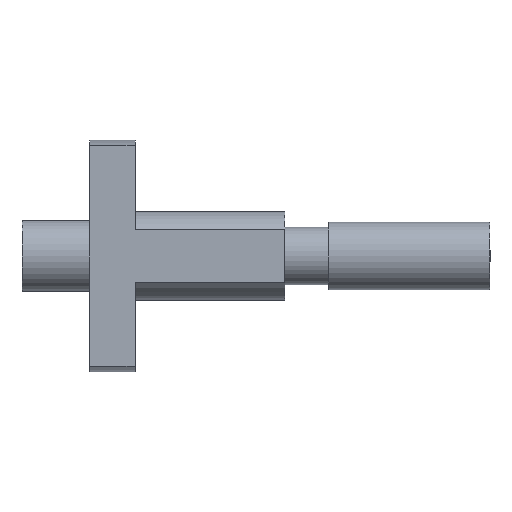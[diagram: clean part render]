
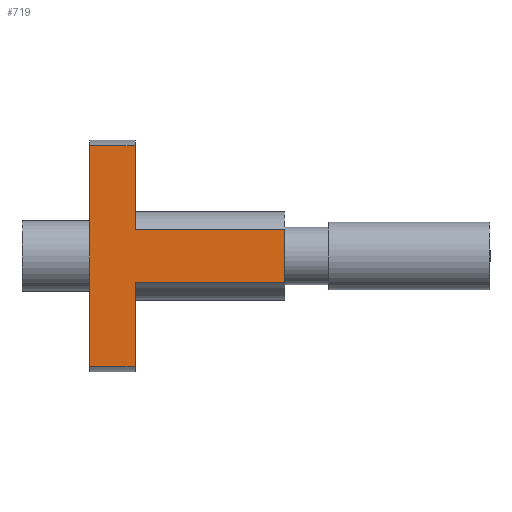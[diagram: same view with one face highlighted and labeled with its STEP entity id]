
A CAD part, left-side view. The second image highlights one B-rep face of the part: STEP entity #719.
In plain terms, the highlighted planar face has unit normal (-1, 0, 0).
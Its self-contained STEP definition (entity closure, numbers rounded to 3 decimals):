
#17 = DIRECTION ( 'NONE',  ( 0., 0., 1. ) ) ;
#30 = ORIENTED_EDGE ( 'NONE', *, *, #860, .T. ) ;
#44 = DIRECTION ( 'NONE',  ( 0., 0., 1. ) ) ;
#60 = DIRECTION ( 'NONE',  ( 1., 0., 0. ) ) ;
#65 = VERTEX_POINT ( 'NONE', #958 ) ;
#92 = DIRECTION ( 'NONE',  ( 0., 1., 0. ) ) ;
#97 = VERTEX_POINT ( 'NONE', #564 ) ;
#99 = CARTESIAN_POINT ( 'NONE',  ( -1.35, 15.4, -1.1 ) ) ;
#110 = CARTESIAN_POINT ( 'NONE',  ( -1.35, 13.65, 1.033 ) ) ;
#118 = CARTESIAN_POINT ( 'NONE',  ( -1.35, 15.4, 0. ) ) ;
#155 = ORIENTED_EDGE ( 'NONE', *, *, #598, .T. ) ;
#159 = DIRECTION ( 'NONE',  ( 0., 0., 1. ) ) ;
#206 = VERTEX_POINT ( 'NONE', #110 ) ;
#227 = EDGE_LOOP ( 'NONE', ( #863, #1085, #30, #473, #555, #840, #155, #637, #355 ) ) ;
#229 = VERTEX_POINT ( 'NONE', #118 ) ;
#243 = VECTOR ( 'NONE', #17, 1000. ) ;
#246 = CARTESIAN_POINT ( 'NONE',  ( -1.35, 13.65, -1.033 ) ) ;
#248 = VERTEX_POINT ( 'NONE', #636 ) ;
#270 = VECTOR ( 'NONE', #44, 1000. ) ;
#306 = EDGE_CURVE ( 'NONE', #248, #65, #539, .T. ) ;
#316 = EDGE_CURVE ( 'NONE', #1043, #1116, #942, .T. ) ;
#335 = VECTOR ( 'NONE', #483, 1000. ) ;
#351 = CARTESIAN_POINT ( 'NONE',  ( -1.35, -1.129, -4.24 ) ) ;
#355 = ORIENTED_EDGE ( 'NONE', *, *, #1084, .T. ) ;
#370 = VECTOR ( 'NONE', #1047, 1000. ) ;
#382 = CARTESIAN_POINT ( 'NONE',  ( -1.35, 17.992, -1.033 ) ) ;
#425 = DIRECTION ( 'NONE',  ( 0., 1., 0. ) ) ;
#429 = EDGE_CURVE ( 'NONE', #229, #868, #591, .T. ) ;
#438 = EDGE_CURVE ( 'NONE', #97, #868, #981, .T. ) ;
#453 = LINE ( 'NONE', #855, #917 ) ;
#473 = ORIENTED_EDGE ( 'NONE', *, *, #1179, .T. ) ;
#483 = DIRECTION ( 'NONE',  ( 0., -1., 0. ) ) ;
#490 = AXIS2_PLACEMENT_3D ( 'NONE', #351, #60, #1132 ) ;
#505 = VECTOR ( 'NONE', #92, 1000. ) ;
#539 = LINE ( 'NONE', #1109, #1211 ) ;
#550 = CARTESIAN_POINT ( 'NONE',  ( -1.35, 15.4, -4.24 ) ) ;
#555 = ORIENTED_EDGE ( 'NONE', *, *, #316, .T. ) ;
#556 = LINE ( 'NONE', #1126, #668 ) ;
#563 = DIRECTION ( 'NONE',  ( 0., 0., -1. ) ) ;
#564 = CARTESIAN_POINT ( 'NONE',  ( -1.35, 13.65, -4.24 ) ) ;
#591 = LINE ( 'NONE', #99, #904 ) ;
#598 = EDGE_CURVE ( 'NONE', #206, #248, #1021, .T. ) ;
#636 = CARTESIAN_POINT ( 'NONE',  ( -1.35, 13.65, 4.24 ) ) ;
#637 = ORIENTED_EDGE ( 'NONE', *, *, #306, .T. ) ;
#658 = CARTESIAN_POINT ( 'NONE',  ( -1.35, 7.9, 1.033 ) ) ;
#661 = CARTESIAN_POINT ( 'NONE',  ( -1.35, 17.992, 1.033 ) ) ;
#668 = VECTOR ( 'NONE', #159, 1000. ) ;
#719 = ADVANCED_FACE ( 'NONE', ( #844 ), #952, .F. ) ;
#794 = EDGE_CURVE ( 'NONE', #206, #1116, #1146, .T. ) ;
#840 = ORIENTED_EDGE ( 'NONE', *, *, #794, .F. ) ;
#844 = FACE_OUTER_BOUND ( 'NONE', #227, .T. ) ;
#855 = CARTESIAN_POINT ( 'NONE',  ( -1.35, 15.4, -1.1 ) ) ;
#860 = EDGE_CURVE ( 'NONE', #97, #1036, #556, .T. ) ;
#863 = ORIENTED_EDGE ( 'NONE', *, *, #429, .T. ) ;
#868 = VERTEX_POINT ( 'NONE', #550 ) ;
#877 = LINE ( 'NONE', #382, #335 ) ;
#904 = VECTOR ( 'NONE', #1064, 1000. ) ;
#917 = VECTOR ( 'NONE', #563, 1000. ) ;
#934 = CARTESIAN_POINT ( 'NONE',  ( -1.35, 7.9, 1.033 ) ) ;
#939 = CARTESIAN_POINT ( 'NONE',  ( -1.35, 7.9, -1.033 ) ) ;
#942 = LINE ( 'NONE', #934, #270 ) ;
#952 = PLANE ( 'NONE',  #490 ) ;
#958 = CARTESIAN_POINT ( 'NONE',  ( -1.35, 15.4, 4.24 ) ) ;
#981 = LINE ( 'NONE', #990, #505 ) ;
#990 = CARTESIAN_POINT ( 'NONE',  ( -1.35, 10.93, -4.24 ) ) ;
#1021 = LINE ( 'NONE', #1119, #243 ) ;
#1036 = VERTEX_POINT ( 'NONE', #246 ) ;
#1043 = VERTEX_POINT ( 'NONE', #939 ) ;
#1047 = DIRECTION ( 'NONE',  ( 0., -1., 0. ) ) ;
#1064 = DIRECTION ( 'NONE',  ( 0., 0., -1. ) ) ;
#1084 = EDGE_CURVE ( 'NONE', #65, #229, #453, .T. ) ;
#1085 = ORIENTED_EDGE ( 'NONE', *, *, #438, .F. ) ;
#1109 = CARTESIAN_POINT ( 'NONE',  ( -1.35, 10.93, 4.24 ) ) ;
#1116 = VERTEX_POINT ( 'NONE', #658 ) ;
#1119 = CARTESIAN_POINT ( 'NONE',  ( -1.35, 13.65, -4.24 ) ) ;
#1126 = CARTESIAN_POINT ( 'NONE',  ( -1.35, 13.65, -4.24 ) ) ;
#1132 = DIRECTION ( 'NONE',  ( 0., 0., -1. ) ) ;
#1146 = LINE ( 'NONE', #661, #370 ) ;
#1179 = EDGE_CURVE ( 'NONE', #1036, #1043, #877, .T. ) ;
#1211 = VECTOR ( 'NONE', #425, 1000. ) ;
